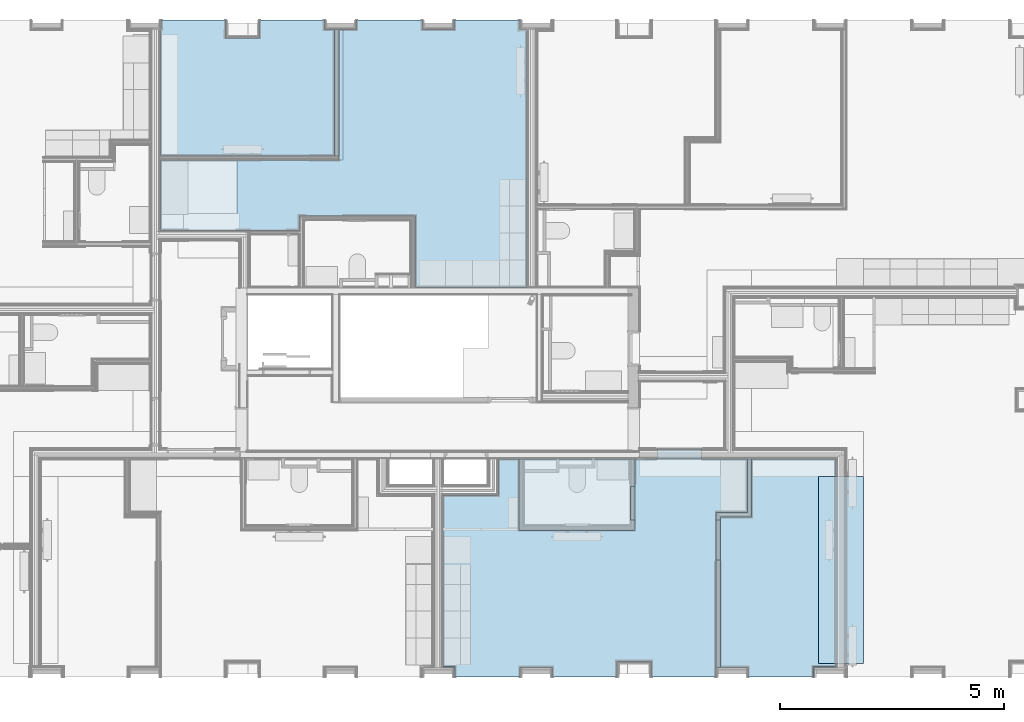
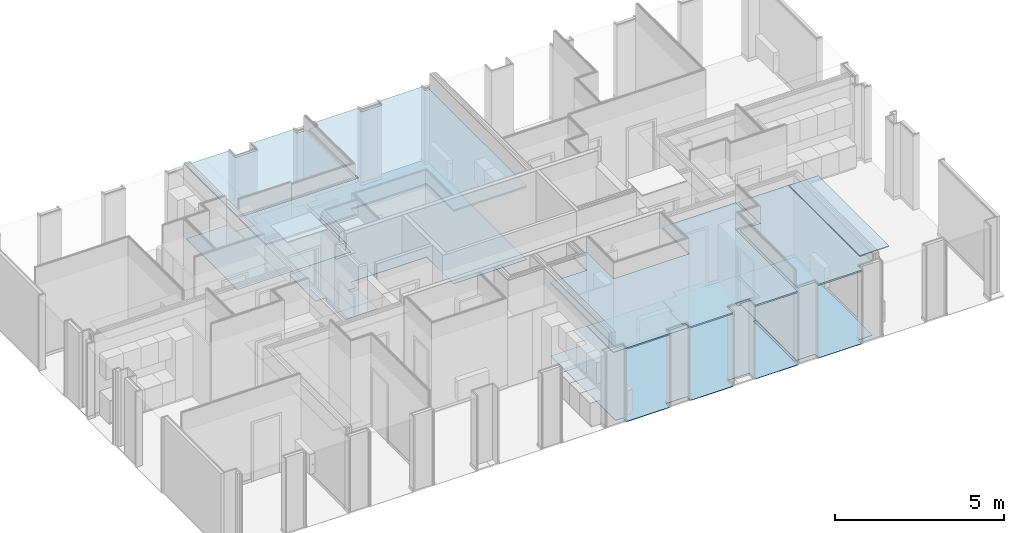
# One storey, part 46 of 65: 15 slabs.
"""IFC2X3 building model written with IfcOpenShell, lengths in metres."""

from ifc_helpers import new_model, entity, si_unit, converted_unit, derived_unit, money_unit, direction, frame, origin_with_axes, place, context, subcontext, project, spatial, faceted_brep, material, type_object, element, save


model = new_model("IFC2X3")

# Units and contexts
model_context = context("Model", 3, precision=1e-05, world=origin_with_axes(), true_north=direction((0.0, 1.0)))
body_context = subcontext(model_context, "Body", "Model", "MODEL_VIEW", scale=1.0)
ifc_project = project(units=[si_unit("LENGTHUNIT", "METRE"), si_unit("AREAUNIT", "SQUARE_METRE"), si_unit("VOLUMEUNIT", "CUBIC_METRE"), si_unit("ABSORBEDDOSEUNIT", "GRAY"), si_unit("AMOUNTOFSUBSTANCEUNIT", "MOLE"), si_unit("DOSEEQUIVALENTUNIT", "SIEVERT"), si_unit("ELECTRICCAPACITANCEUNIT", "FARAD"), si_unit("ELECTRICCHARGEUNIT", "COULOMB"), si_unit("ELECTRICCONDUCTANCEUNIT", "SIEMENS"), si_unit("ELECTRICCURRENTUNIT", "AMPERE"), si_unit("ELECTRICRESISTANCEUNIT", "OHM"), si_unit("ELECTRICVOLTAGEUNIT", "VOLT"), si_unit("ENERGYUNIT", "JOULE"), si_unit("FORCEUNIT", "NEWTON"), si_unit("FREQUENCYUNIT", "HERTZ"), si_unit("ILLUMINANCEUNIT", "LUX"), si_unit("INDUCTANCEUNIT", "HENRY"), si_unit("LUMINOUSFLUXUNIT", "LUMEN"), si_unit("LUMINOUSINTENSITYUNIT", "CANDELA"), si_unit("MAGNETICFLUXDENSITYUNIT", "TESLA"), si_unit("MAGNETICFLUXUNIT", "WEBER"), si_unit("MASSUNIT", "GRAM"), converted_unit("PLANEANGLEUNIT", "degree", entity("IfcReal", 0.0174532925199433), si_unit("PLANEANGLEUNIT", "RADIAN"), dimensions=[0, 0, 0, 0, 0, 0, 0]), si_unit("POWERUNIT", "WATT"), si_unit("PRESSUREUNIT", "PASCAL"), si_unit("RADIOACTIVITYUNIT", "BECQUEREL"), si_unit("SOLIDANGLEUNIT", "STERADIAN"), si_unit("THERMODYNAMICTEMPERATUREUNIT", "KELVIN"), si_unit("TIMEUNIT", "SECOND"), derived_unit("ACCELERATIONUNIT", [(si_unit("LENGTHUNIT", "METRE"), 1), (si_unit("TIMEUNIT", "SECOND"), -2)]), derived_unit("ANGULARVELOCITYUNIT", [(converted_unit("PLANEANGLEUNIT", "degree", entity("IfcReal", 0.0174532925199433), si_unit("PLANEANGLEUNIT", "RADIAN"), dimensions=[0, 0, 0, 0, 0, 0, 0]), 1), (si_unit("TIMEUNIT", "SECOND"), -1)]), derived_unit("CURVATUREUNIT", [(converted_unit("PLANEANGLEUNIT", "degree", entity("IfcReal", 0.0174532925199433), si_unit("PLANEANGLEUNIT", "RADIAN"), dimensions=[0, 0, 0, 0, 0, 0, 0]), 1), (si_unit("LENGTHUNIT", "METRE"), -1)]), derived_unit("DYNAMICVISCOSITYUNIT", [(si_unit("PRESSUREUNIT", "PASCAL"), 1), (si_unit("TIMEUNIT", "SECOND"), 1)]), derived_unit("HEATFLUXDENSITYUNIT", [(si_unit("POWERUNIT", "WATT"), 1), (si_unit("LENGTHUNIT", "METRE"), -2)]), derived_unit("HEATINGVALUEUNIT", [(si_unit("ENERGYUNIT", "JOULE"), 1), (si_unit("MASSUNIT", "GRAM"), -1)]), derived_unit("INTEGERCOUNTRATEUNIT", [(si_unit("TIMEUNIT", "SECOND"), -1)]), derived_unit("IONCONCENTRATIONUNIT", [(si_unit("MASSUNIT", "GRAM"), 1), (si_unit("VOLUMEUNIT", "CUBIC_METRE"), -1)]), derived_unit("ISOTHERMALMOISTURECAPACITYUNIT", [(si_unit("VOLUMEUNIT", "CUBIC_METRE"), 1), (si_unit("MASSUNIT", "GRAM"), -1)]), derived_unit("KINEMATICVISCOSITYUNIT", [(si_unit("AREAUNIT", "SQUARE_METRE"), 1), (si_unit("TIMEUNIT", "SECOND"), -1)]), derived_unit("LINEARFORCEUNIT", [(si_unit("FORCEUNIT", "NEWTON"), 1), (si_unit("LENGTHUNIT", "METRE"), -1)]), derived_unit("LINEARMOMENTUNIT", [(si_unit("FORCEUNIT", "NEWTON"), 1), (si_unit("LENGTHUNIT", "METRE"), -1)]), derived_unit("LINEARSTIFFNESSUNIT", [(si_unit("FORCEUNIT", "NEWTON"), 1), (si_unit("LENGTHUNIT", "METRE"), -1)]), derived_unit("LINEARVELOCITYUNIT", [(si_unit("LENGTHUNIT", "METRE"), 1), (si_unit("TIMEUNIT", "SECOND"), -1)]), derived_unit("LUMINOUSINTENSITYDISTRIBUTIONUNIT", [(si_unit("LUMINOUSINTENSITYUNIT", "CANDELA"), 1), (si_unit("LUMINOUSFLUXUNIT", "LUMEN"), -1)]), derived_unit("MASSDENSITYUNIT", [(si_unit("MASSUNIT", "GRAM"), 1), (si_unit("VOLUMEUNIT", "CUBIC_METRE"), -1)]), derived_unit("MASSFLOWRATEUNIT", [(si_unit("MASSUNIT", "GRAM"), 1), (si_unit("TIMEUNIT", "SECOND"), -1)]), derived_unit("MASSPERLENGTHUNIT", [(si_unit("MASSUNIT", "GRAM"), 1), (si_unit("LENGTHUNIT", "METRE"), -1)]), derived_unit("MODULUSOFELASTICITYUNIT", [(si_unit("FORCEUNIT", "NEWTON"), 1), (si_unit("AREAUNIT", "SQUARE_METRE"), -1)]), derived_unit("MODULUSOFLINEARSUBGRADEREACTIONUNIT", [(si_unit("FORCEUNIT", "NEWTON"), 1), (si_unit("LENGTHUNIT", "METRE"), -2)]), derived_unit("MODULUSOFROTATIONALSUBGRADEREACTIONUNIT", [(si_unit("FORCEUNIT", "NEWTON"), 1), (si_unit("LENGTHUNIT", "METRE"), 1)]), derived_unit("MODULUSOFSUBGRADEREACTIONUNIT", [(si_unit("FORCEUNIT", "NEWTON"), 1), (si_unit("VOLUMEUNIT", "CUBIC_METRE"), -1)]), derived_unit("MOISTUREDIFFUSIVITYUNIT", [(si_unit("VOLUMEUNIT", "CUBIC_METRE"), 1), (si_unit("TIMEUNIT", "SECOND"), -1)]), derived_unit("MOLECULARWEIGHTUNIT", [(si_unit("MASSUNIT", "GRAM"), 1), (si_unit("AMOUNTOFSUBSTANCEUNIT", "MOLE"), -1)]), derived_unit("PLANARFORCEUNIT", [(si_unit("FORCEUNIT", "NEWTON"), 1), (si_unit("LENGTHUNIT", "METRE"), -2)]), derived_unit("ROTATIONALFREQUENCYUNIT", [(si_unit("TIMEUNIT", "SECOND"), -1)]), derived_unit("ROTATIONALMASSUNIT", [(si_unit("MASSUNIT", "GRAM"), 1), (si_unit("LENGTHUNIT", "METRE"), 2)]), derived_unit("ROTATIONALSTIFFNESSUNIT", [(si_unit("FORCEUNIT", "NEWTON"), 1), (si_unit("LENGTHUNIT", "METRE"), 1), (converted_unit("PLANEANGLEUNIT", "degree", entity("IfcReal", 0.0174532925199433), si_unit("PLANEANGLEUNIT", "RADIAN"), dimensions=[0, 0, 0, 0, 0, 0, 0]), -1)]), derived_unit("SECTIONAREAINTEGRALUNIT", [(si_unit("LENGTHUNIT", "METRE"), 5)]), derived_unit("SECTIONMODULUSUNIT", [(si_unit("LENGTHUNIT", "METRE"), 3)]), derived_unit("SHEARMODULUSUNIT", [(si_unit("FORCEUNIT", "NEWTON"), 1), (si_unit("AREAUNIT", "SQUARE_METRE"), -1)]), derived_unit("SOUNDPOWERUNIT", [(si_unit("ENERGYUNIT", "JOULE"), 1), (si_unit("TIMEUNIT", "SECOND"), -1)]), derived_unit("SPECIFICHEATCAPACITYUNIT", [(si_unit("FORCEUNIT", "NEWTON"), 1), (si_unit("MASSUNIT", "GRAM"), -1), (si_unit("THERMODYNAMICTEMPERATUREUNIT", "KELVIN"), -1)]), derived_unit("TEMPERATUREGRADIENTUNIT", [(si_unit("THERMODYNAMICTEMPERATUREUNIT", "KELVIN"), 1), (si_unit("LENGTHUNIT", "METRE"), -1)]), derived_unit("THERMALADMITTANCEUNIT", [(si_unit("POWERUNIT", "WATT"), 1), (si_unit("AREAUNIT", "SQUARE_METRE"), -1), (si_unit("THERMODYNAMICTEMPERATUREUNIT", "KELVIN"), -1)]), derived_unit("THERMALCONDUCTANCEUNIT", [(si_unit("POWERUNIT", "WATT"), 1), (si_unit("LENGTHUNIT", "METRE"), -1), (si_unit("THERMODYNAMICTEMPERATUREUNIT", "KELVIN"), -1)]), derived_unit("THERMALEXPANSIONCOEFFICIENTUNIT", [(si_unit("THERMODYNAMICTEMPERATUREUNIT", "KELVIN"), -1)]), derived_unit("THERMALRESISTANCEUNIT", [(si_unit("AREAUNIT", "SQUARE_METRE"), 1), (si_unit("POWERUNIT", "WATT"), -1)]), derived_unit("THERMALTRANSMITTANCEUNIT", [(si_unit("POWERUNIT", "WATT"), 1), (si_unit("AREAUNIT", "SQUARE_METRE"), -1), (si_unit("THERMODYNAMICTEMPERATUREUNIT", "KELVIN"), -1)]), derived_unit("TORQUEUNIT", [(si_unit("FORCEUNIT", "NEWTON"), 1), (si_unit("LENGTHUNIT", "METRE"), 1)]), derived_unit("VAPORPERMEABILITYUNIT", [(si_unit("MASSUNIT", "GRAM"), 1), (si_unit("TIMEUNIT", "SECOND"), -1)]), derived_unit("VOLUMETRICFLOWRATEUNIT", [(si_unit("VOLUMEUNIT", "CUBIC_METRE"), 1), (si_unit("TIMEUNIT", "SECOND"), -1)]), derived_unit("WARPINGCONSTANTUNIT", [(si_unit("LENGTHUNIT", "METRE"), 6)]), derived_unit("WARPINGMOMENTUNIT", [(si_unit("FORCEUNIT", "NEWTON"), 1), (si_unit("LENGTHUNIT", "METRE"), 2)]), money_unit("GBP")], contexts=[model_context])

# Site, building, storey
site_placement = place(None, origin_with_axes())
site = spatial("IfcSite", under=ifc_project, at=site_placement, Name="Site", CompositionType="ELEMENT")
building_placement = place(site_placement, origin_with_axes())
building = spatial("IfcBuilding", under=site, at=building_placement, Name="Building01", CompositionType="ELEMENT")
storey_placement = place(building_placement, frame((0.0, 0.0, 8.64), z_axis=(0.0, 0.0, 1.0), x_axis=(1.0, 0.0, 0.0)))
storey = spatial("IfcBuildingStorey", under=building, at=storey_placement, Name="2F", CompositionType="ELEMENT", Elevation=8.64)

# Slabs
ifc_material_1 = material(Name="A_BSUK_ExpandedPolystyreneBoards")
slab_type_1 = type_object("IfcSlabType", Name="A-FloorsSlabs A_BSUK_Slabs", PredefinedType="FLOOR")
placement = place(storey_placement, frame((0.0, 0.0, -8.64), z_axis=(0.0, 0.0, 1.0), x_axis=(1.0, 0.0, 0.0)))
element("IfcSlab", 1, at=placement, inside=storey, type_object=slab_type_1, material=ifc_material_1, Name="A-FloorsSlabs A_BSUK_Slabs", ObjectType="CompoundSlabLeaf", context=body_context, shape_type="Brep", body=[
    faceted_brep([(14.85, 4.164428, 8.64), (14.85, 4.164428, 8.643), (14.85, 4.98, 8.643), (14.85, 4.98, 8.64), (13.6125, 4.164428, 8.64), (13.6125, 4.164428, 8.643), (13.6125, 0.318, 8.64), (13.6125, 0.318, 8.643), (13.865, 0.318, 8.64), (13.865, 0.318, 8.643), (13.865, 0.1, 8.64), (13.865, 0.1, 8.643), (15.335, 0.1, 8.64), (15.335, 0.1, 8.643), (15.335, 0.318, 8.64), (15.335, 0.318, 8.643), (16.055, 0.318, 8.64), (16.055, 0.318, 8.643), (16.055, 0.1, 8.64), (16.055, 0.1, 8.643), (17.502, 0.1, 8.64), (17.502, 0.1, 8.643), (17.502, 0.448, 8.64), (17.502, 0.448, 8.643), (18.268, 0.448, 8.64), (18.268, 0.448, 8.643), (18.268, 0.1, 8.64), (18.268, 0.1, 8.643), (19.715, 0.1, 8.64), (19.715, 0.1, 8.643), (19.715, 0.318, 8.64), (19.715, 0.318, 8.643), (20.435, 0.318, 8.64), (20.435, 0.318, 8.643), (20.435, 0.1, 8.64), (20.435, 0.1, 8.643), (21.905, 0.1, 8.64), (21.905, 0.1, 8.643), (21.905, 0.318, 8.64), (21.905, 0.318, 8.643), (22.4, 0.318, 8.64), (22.4, 0.318, 8.643), (22.4, 4.98, 8.64), (22.4, 4.98, 8.643), (19.392, 4.98, 8.64), (19.392, 4.98, 8.643), (19.392, 5.205, 8.64), (19.392, 5.205, 8.643), (18.392, 5.205, 8.64), (18.392, 5.205, 8.643), (18.392, 4.98, 8.64), (18.392, 4.98, 8.643), (18.0, 4.98, 8.64), (18.0, 4.98, 8.643)], [[[0, 1, 2, 3]], [[4, 5, 1, 0]], [[6, 7, 5, 4]], [[8, 9, 7, 6]], [[10, 11, 9, 8]], [[12, 13, 11, 10]], [[14, 15, 13, 12]], [[16, 17, 15, 14]], [[18, 19, 17, 16]], [[20, 21, 19, 18]], [[22, 23, 21, 20]], [[24, 25, 23, 22]], [[26, 27, 25, 24]], [[28, 29, 27, 26]], [[30, 31, 29, 28]], [[32, 33, 31, 30]], [[34, 35, 33, 32]], [[36, 37, 35, 34]], [[38, 39, 37, 36]], [[40, 41, 39, 38]], [[42, 43, 41, 40]], [[44, 45, 43, 42]], [[46, 47, 45, 44]], [[48, 49, 47, 46]], [[50, 51, 49, 48]], [[52, 53, 51, 50]], [[3, 2, 53, 52]], [[1, 5, 7, 9, 11, 13, 15, 17, 19, 21, 23, 25, 27, 29, 31, 33, 35, 37, 39, 41, 43, 45, 47, 49, 51, 53, 2]], [[3, 52, 50, 48, 46, 44, 42, 40, 38, 36, 34, 32, 30, 28, 26, 24, 22, 20, 18, 16, 14, 12, 10, 8, 6, 4, 0]]]),
])
ifc_material_2 = material(Name="A_BSUK_Parquet_Floor")
element("IfcSlab", 2, at=placement, inside=storey, type_object=slab_type_1, material=ifc_material_2, Name="A-FloorsSlabs A_BSUK_Slabs", ObjectType="CompoundSlabLeaf", context=body_context, shape_type="Brep", body=[
    faceted_brep([(9.285, 9.200704, 8.643), (9.285, 9.200704, 8.655), (9.285, 9.992662, 8.655), (9.285, 9.992662, 8.643), (9.285, 8.82, 8.643), (9.285, 8.82, 8.655), (10.393585, 8.82, 8.643), (10.393585, 8.82, 8.655), (10.393585, 9.992704, 8.643), (10.393585, 9.992704, 8.655), (10.128871, 9.992704, 8.643), (10.128871, 9.992704, 8.655), (10.128871, 10.087704, 8.643), (10.128871, 10.087704, 8.655), (10.393871, 10.087704, 8.643), (10.393871, 10.087704, 8.655), (10.393871, 10.415, 8.643), (10.393871, 10.415, 8.655), (12.988585, 10.415, 8.643), (12.988585, 10.415, 8.655), (12.988585, 8.82, 8.643), (12.988585, 8.82, 8.655), (15.483132, 8.82, 8.643), (15.483132, 8.82, 8.655), (15.483132, 14.582, 8.643), (15.483132, 14.582, 8.655), (15.335, 14.582, 8.643), (15.335, 14.582, 8.655), (15.335, 14.8, 8.643), (15.335, 14.8, 8.655), (13.865, 14.8, 8.643), (13.865, 14.8, 8.655), (13.865, 14.582, 8.643), (13.865, 14.582, 8.655), (13.145, 14.582, 8.643), (13.145, 14.582, 8.655), (13.145, 14.8, 8.643), (13.145, 14.8, 8.655), (11.675, 14.8, 8.643), (11.675, 14.8, 8.655), (11.675, 14.582, 8.643), (11.675, 14.582, 8.655), (11.275, 14.582, 8.643), (11.275, 14.582, 8.655), (11.275, 11.668124, 8.643), (11.275, 11.668124, 8.655), (10.611, 11.668124, 8.643), (10.611, 11.668124, 8.655), (10.611, 11.763124, 8.643), (10.611, 11.763124, 8.655), (9.711, 11.763124, 8.643), (9.711, 11.763124, 8.655), (9.711, 11.668124, 8.643), (9.711, 11.668124, 8.655), (8.995, 11.668124, 8.643), (8.995, 11.668124, 8.655), (8.995, 10.087704, 8.643), (8.995, 10.087704, 8.655), (9.09, 10.087704, 8.643), (9.09, 10.087704, 8.655), (9.336871, 10.087704, 8.643), (9.336871, 10.087704, 8.655), (9.336871, 9.992704, 8.643), (9.336871, 9.992704, 8.655)], [[[0, 1, 2, 3]], [[4, 5, 1, 0]], [[6, 7, 5, 4]], [[8, 9, 7, 6]], [[10, 11, 9, 8]], [[12, 13, 11, 10]], [[14, 15, 13, 12]], [[16, 17, 15, 14]], [[18, 19, 17, 16]], [[20, 21, 19, 18]], [[22, 23, 21, 20]], [[24, 25, 23, 22]], [[26, 27, 25, 24]], [[28, 29, 27, 26]], [[30, 31, 29, 28]], [[32, 33, 31, 30]], [[34, 35, 33, 32]], [[36, 37, 35, 34]], [[38, 39, 37, 36]], [[40, 41, 39, 38]], [[42, 43, 41, 40]], [[44, 45, 43, 42]], [[46, 47, 45, 44]], [[48, 49, 47, 46]], [[50, 51, 49, 48]], [[52, 53, 51, 50]], [[54, 55, 53, 52]], [[56, 57, 55, 54]], [[58, 59, 57, 56]], [[60, 61, 59, 58]], [[62, 63, 61, 60]], [[3, 2, 63, 62]], [[1, 5, 7, 9, 11, 13, 15, 17, 19, 21, 23, 25, 27, 29, 31, 33, 35, 37, 39, 41, 43, 45, 47, 49, 51, 53, 55, 57, 59, 61, 63, 2]], [[3, 62, 60, 58, 56, 54, 52, 50, 48, 46, 44, 42, 40, 38, 36, 34, 32, 30, 28, 26, 24, 22, 20, 18, 16, 14, 12, 10, 8, 6, 4, 0]]]),
])
ifc_material_3 = material(Name="A_BSUK_Carpet-Pile")
element("IfcSlab", 3, at=placement, inside=storey, type_object=slab_type_1, material=ifc_material_3, Name="A-FloorsSlabs A_BSUK_Slabs", ObjectType="CompoundSlabLeaf", context=body_context, shape_type="Brep", body=[
    faceted_brep([(7.289669, 11.763124, 8.643), (7.289669, 11.763124, 8.655), (7.289669, 14.582, 8.655), (7.289669, 14.582, 8.643), (8.995, 11.763124, 8.643), (8.995, 11.763124, 8.655), (11.18, 11.763124, 8.643), (11.18, 11.763124, 8.655), (11.18, 14.582, 8.643), (11.18, 14.582, 8.655), (10.955, 14.582, 8.643), (10.955, 14.582, 8.655), (10.955, 14.8, 8.643), (10.955, 14.8, 8.655), (9.508, 14.8, 8.643), (9.508, 14.8, 8.655), (9.508, 14.402, 8.643), (9.508, 14.402, 8.655), (8.742, 14.402, 8.643), (8.742, 14.402, 8.655), (8.742, 14.8, 8.643), (8.742, 14.8, 8.655), (7.295, 14.8, 8.643), (7.295, 14.8, 8.655), (7.295, 14.582, 8.643), (7.295, 14.582, 8.655)], [[[0, 1, 2, 3]], [[4, 5, 1, 0]], [[6, 7, 5, 4]], [[8, 9, 7, 6]], [[10, 11, 9, 8]], [[12, 13, 11, 10]], [[14, 15, 13, 12]], [[16, 17, 15, 14]], [[18, 19, 17, 16]], [[20, 21, 19, 18]], [[22, 23, 21, 20]], [[24, 25, 23, 22]], [[3, 2, 25, 24]], [[1, 5, 7, 9, 11, 13, 15, 17, 19, 21, 23, 25, 2]], [[3, 24, 22, 20, 18, 16, 14, 12, 10, 8, 6, 4, 0]]]),
])
element("IfcSlab", 4, at=placement, inside=storey, type_object=slab_type_1, material=ifc_material_2, Name="A-FloorsSlabs A_BSUK_Slabs", ObjectType="CompoundSlabLeaf", context=body_context, shape_type="Brep", body=[
    faceted_brep([(18.392, 4.98, 8.643), (18.392, 4.98, 8.655), (18.392, 5.205, 8.655), (18.392, 5.205, 8.643), (17.9025, 4.98, 8.643), (17.9025, 4.98, 8.655), (17.9025, 4.363781, 8.643), (17.9025, 4.363781, 8.655), (17.8075, 4.363781, 8.643), (17.8075, 4.363781, 8.655), (17.8075, 3.613781, 8.643), (17.8075, 3.613781, 8.655), (17.9025, 3.613781, 8.643), (17.9025, 3.613781, 8.655), (17.9025, 3.385, 8.643), (17.9025, 3.385, 8.655), (15.3125, 3.385, 8.643), (15.3125, 3.385, 8.655), (15.3125, 4.98, 8.643), (15.3125, 4.98, 8.655), (14.85, 4.98, 8.643), (14.85, 4.98, 8.655), (14.85, 4.164428, 8.643), (14.85, 4.164428, 8.655), (13.6125, 4.164428, 8.643), (13.6125, 4.164428, 8.655), (13.6125, 0.318, 8.643), (13.6125, 0.318, 8.655), (13.865, 0.318, 8.643), (13.865, 0.318, 8.655), (13.865, 0.1, 8.643), (13.865, 0.1, 8.655), (15.335, 0.1, 8.643), (15.335, 0.1, 8.655), (15.335, 0.318, 8.643), (15.335, 0.318, 8.655), (16.055, 0.318, 8.643), (16.055, 0.318, 8.655), (16.055, 0.1, 8.643), (16.055, 0.1, 8.655), (17.502, 0.1, 8.643), (17.502, 0.1, 8.655), (17.502, 0.448, 8.643), (17.502, 0.448, 8.655), (18.268, 0.448, 8.643), (18.268, 0.448, 8.655), (18.268, 0.1, 8.643), (18.268, 0.1, 8.655), (19.715, 0.1, 8.643), (19.715, 0.1, 8.655), (19.715, 2.716, 8.643), (19.715, 2.716, 8.655), (19.81, 2.716, 8.643), (19.81, 2.716, 8.655), (19.81, 3.616, 8.643), (19.81, 3.616, 8.655), (19.715, 3.616, 8.643), (19.715, 3.616, 8.655), (19.715, 3.78, 8.643), (19.715, 3.78, 8.655), (20.415, 3.78, 8.643), (20.415, 3.78, 8.655), (20.415, 4.98, 8.643), (20.415, 4.98, 8.655), (19.392, 4.98, 8.643), (19.392, 4.98, 8.655), (19.392, 5.205, 8.643), (19.392, 5.205, 8.655)], [[[0, 1, 2, 3]], [[4, 5, 1, 0]], [[6, 7, 5, 4]], [[8, 9, 7, 6]], [[10, 11, 9, 8]], [[12, 13, 11, 10]], [[14, 15, 13, 12]], [[16, 17, 15, 14]], [[18, 19, 17, 16]], [[20, 21, 19, 18]], [[22, 23, 21, 20]], [[24, 25, 23, 22]], [[26, 27, 25, 24]], [[28, 29, 27, 26]], [[30, 31, 29, 28]], [[32, 33, 31, 30]], [[34, 35, 33, 32]], [[36, 37, 35, 34]], [[38, 39, 37, 36]], [[40, 41, 39, 38]], [[42, 43, 41, 40]], [[44, 45, 43, 42]], [[46, 47, 45, 44]], [[48, 49, 47, 46]], [[50, 51, 49, 48]], [[52, 53, 51, 50]], [[54, 55, 53, 52]], [[56, 57, 55, 54]], [[58, 59, 57, 56]], [[60, 61, 59, 58]], [[62, 63, 61, 60]], [[64, 65, 63, 62]], [[66, 67, 65, 64]], [[3, 2, 67, 66]], [[1, 5, 7, 9, 11, 13, 15, 17, 19, 21, 23, 25, 27, 29, 31, 33, 35, 37, 39, 41, 43, 45, 47, 49, 51, 53, 55, 57, 59, 61, 63, 65, 67, 2]], [[3, 66, 64, 62, 60, 58, 56, 54, 52, 50, 48, 46, 44, 42, 40, 38, 36, 34, 32, 30, 28, 26, 24, 22, 20, 18, 16, 14, 12, 10, 8, 6, 4, 0]]]),
])
element("IfcSlab", 5, at=placement, inside=storey, type_object=slab_type_1, material=ifc_material_3, Name="A-FloorsSlabs A_BSUK_Slabs", ObjectType="CompoundSlabLeaf", context=body_context, shape_type="Brep", body=[
    faceted_brep([(20.51, 4.98, 8.643), (20.51, 4.98, 8.655), (22.4, 4.98, 8.655), (22.4, 4.98, 8.643), (20.51, 3.685, 8.643), (20.51, 3.685, 8.655), (19.81, 3.685, 8.643), (19.81, 3.685, 8.655), (19.81, 0.318, 8.643), (19.81, 0.318, 8.655), (20.435, 0.318, 8.643), (20.435, 0.318, 8.655), (20.435, 0.1, 8.643), (20.435, 0.1, 8.655), (21.905, 0.1, 8.643), (21.905, 0.1, 8.655), (21.905, 0.318, 8.643), (21.905, 0.318, 8.655), (22.4, 0.318, 8.643), (22.4, 0.318, 8.655)], [[[0, 1, 2, 3]], [[4, 5, 1, 0]], [[6, 7, 5, 4]], [[8, 9, 7, 6]], [[10, 11, 9, 8]], [[12, 13, 11, 10]], [[14, 15, 13, 12]], [[16, 17, 15, 14]], [[18, 19, 17, 16]], [[3, 2, 19, 18]], [[1, 5, 7, 9, 11, 13, 15, 17, 19, 2]], [[3, 18, 16, 14, 12, 10, 8, 6, 4, 0]]]),
])
ifc_material_4 = material(Name="A_BSUK_CeilingSoffitFinishes_Suspended")
element("IfcSlab", 6, at=placement, inside=storey, type_object=slab_type_1, material=ifc_material_4, Name="A-FloorsSlabs A_BSUK_Slabs", ObjectType="CompoundSlabLeaf", context=body_context, shape_type="Brep", body=[
    faceted_brep([(12.988585, 10.415, 11.255), (12.988585, 10.415, 11.27), (10.393871, 10.415, 11.27), (10.393871, 10.415, 11.255), (12.988585, 8.82, 11.255), (12.988585, 8.82, 11.27), (15.483132, 8.82, 11.255), (15.483132, 8.82, 11.27), (15.483132, 14.567, 11.255), (15.483132, 14.567, 11.27), (15.32, 14.567, 11.255), (15.32, 14.567, 11.27), (15.32, 14.8, 11.255), (15.32, 14.8, 11.27), (13.865, 14.8, 11.255), (13.865, 14.8, 11.27), (13.865, 14.582, 11.255), (13.865, 14.582, 11.27), (13.145, 14.582, 11.255), (13.145, 14.582, 11.27), (13.145, 14.8, 11.255), (13.145, 14.8, 11.27), (11.675, 14.8, 11.255), (11.675, 14.8, 11.27), (11.675, 14.582, 11.255), (11.675, 14.582, 11.27), (11.275, 14.582, 11.255), (11.275, 14.582, 11.27), (11.275, 11.668124, 11.255), (11.275, 11.668124, 11.27), (10.653, 11.668124, 11.255), (10.653, 11.668124, 11.27), (9.642, 11.668124, 11.255), (9.642, 11.668124, 11.27), (7.289669, 11.668124, 11.255), (7.289669, 11.668124, 11.27), (7.289669, 10.087704, 11.255), (7.289669, 10.087704, 11.27), (10.393871, 10.087704, 11.255), (10.393871, 10.087704, 11.27)], [[[0, 1, 2, 3]], [[4, 5, 1, 0]], [[6, 7, 5, 4]], [[8, 9, 7, 6]], [[10, 11, 9, 8]], [[12, 13, 11, 10]], [[14, 15, 13, 12]], [[16, 17, 15, 14]], [[18, 19, 17, 16]], [[20, 21, 19, 18]], [[22, 23, 21, 20]], [[24, 25, 23, 22]], [[26, 27, 25, 24]], [[28, 29, 27, 26]], [[30, 31, 29, 28]], [[32, 33, 31, 30]], [[34, 35, 33, 32]], [[36, 37, 35, 34]], [[38, 39, 37, 36]], [[3, 2, 39, 38]], [[1, 5, 7, 9, 11, 13, 15, 17, 19, 21, 23, 25, 27, 29, 31, 33, 35, 37, 39, 2]], [[3, 38, 36, 34, 32, 30, 28, 26, 24, 22, 20, 18, 16, 14, 12, 10, 8, 6, 4, 0]]]),
])
element("IfcSlab", 7, at=placement, inside=storey, type_object=slab_type_1, material=ifc_material_4, Name="A-FloorsSlabs A_BSUK_Slabs", ObjectType="CompoundSlabLeaf", context=body_context, shape_type="Brep", body=[
    faceted_brep([(7.289669, 12.013124, 11.255), (7.289669, 12.013124, 11.27), (7.289669, 14.567, 11.27), (7.289669, 14.567, 11.255), (7.289669, 11.763124, 11.255), (7.289669, 11.763124, 11.27), (11.18, 11.763124, 11.255), (11.18, 11.763124, 11.27), (11.18, 14.582, 11.255), (11.18, 14.582, 11.27), (10.955, 14.582, 11.255), (10.955, 14.582, 11.27), (10.955, 14.8, 11.255), (10.955, 14.8, 11.27), (9.508, 14.8, 11.255), (9.508, 14.8, 11.27), (9.508, 14.402, 11.255), (9.508, 14.402, 11.27), (8.742, 14.402, 11.255), (8.742, 14.402, 11.27), (8.742, 14.8, 11.255), (8.742, 14.8, 11.27), (7.31, 14.8, 11.255), (7.31, 14.8, 11.27), (7.31, 14.567, 11.255), (7.31, 14.567, 11.27)], [[[0, 1, 2, 3]], [[4, 5, 1, 0]], [[6, 7, 5, 4]], [[8, 9, 7, 6]], [[10, 11, 9, 8]], [[12, 13, 11, 10]], [[14, 15, 13, 12]], [[16, 17, 15, 14]], [[18, 19, 17, 16]], [[20, 21, 19, 18]], [[22, 23, 21, 20]], [[24, 25, 23, 22]], [[3, 2, 25, 24]], [[1, 5, 7, 9, 11, 13, 15, 17, 19, 21, 23, 25, 2]], [[3, 24, 22, 20, 18, 16, 14, 12, 10, 8, 6, 4, 0]]]),
])
element("IfcSlab", 8, at=placement, inside=storey, type_object=slab_type_1, material=ifc_material_4, Name="A-FloorsSlabs A_BSUK_Slabs", ObjectType="CompoundSlabLeaf", context=body_context, shape_type="Brep", body=[
    faceted_brep([(17.9025, 4.98, 11.255), (17.9025, 4.98, 11.27), (18.395, 4.98, 11.27), (18.395, 4.98, 11.255), (17.9025, 4.232781, 11.255), (17.9025, 4.232781, 11.27), (17.9025, 3.385, 11.255), (17.9025, 3.385, 11.27), (15.3125, 3.385, 11.255), (15.3125, 3.385, 11.27), (15.3125, 4.98, 11.255), (15.3125, 4.98, 11.27), (14.85, 4.98, 11.255), (14.85, 4.98, 11.27), (14.85, 4.164428, 11.255), (14.85, 4.164428, 11.27), (13.6125, 4.164428, 11.255), (13.6125, 4.164428, 11.27), (13.6125, 0.333, 11.255), (13.6125, 0.333, 11.27), (13.880124, 0.333, 11.255), (13.880124, 0.333, 11.27), (13.880124, 0.1, 11.255), (13.880124, 0.1, 11.27), (15.335, 0.1, 11.255), (15.335, 0.1, 11.27), (15.335, 0.318, 11.255), (15.335, 0.318, 11.27), (16.055, 0.318, 11.255), (16.055, 0.318, 11.27), (16.055, 0.1, 11.255), (16.055, 0.1, 11.27), (17.502, 0.1, 11.255), (17.502, 0.1, 11.27), (17.502, 0.448, 11.255), (17.502, 0.448, 11.27), (18.268, 0.448, 11.255), (18.268, 0.448, 11.27), (18.268, 0.1, 11.255), (18.268, 0.1, 11.27), (19.715, 0.1, 11.255), (19.715, 0.1, 11.27), (19.715, 3.151781, 11.255), (19.715, 3.151781, 11.27), (19.715, 3.78, 11.255), (19.715, 3.78, 11.27), (20.415, 3.78, 11.255), (20.415, 3.78, 11.27), (20.415, 4.98, 11.255), (20.415, 4.98, 11.27), (19.395, 4.98, 11.255), (19.395, 4.98, 11.27)], [[[0, 1, 2, 3]], [[4, 5, 1, 0]], [[6, 7, 5, 4]], [[8, 9, 7, 6]], [[10, 11, 9, 8]], [[12, 13, 11, 10]], [[14, 15, 13, 12]], [[16, 17, 15, 14]], [[18, 19, 17, 16]], [[20, 21, 19, 18]], [[22, 23, 21, 20]], [[24, 25, 23, 22]], [[26, 27, 25, 24]], [[28, 29, 27, 26]], [[30, 31, 29, 28]], [[32, 33, 31, 30]], [[34, 35, 33, 32]], [[36, 37, 35, 34]], [[38, 39, 37, 36]], [[40, 41, 39, 38]], [[42, 43, 41, 40]], [[44, 45, 43, 42]], [[46, 47, 45, 44]], [[48, 49, 47, 46]], [[50, 51, 49, 48]], [[3, 2, 51, 50]], [[1, 5, 7, 9, 11, 13, 15, 17, 19, 21, 23, 25, 27, 29, 31, 33, 35, 37, 39, 41, 43, 45, 47, 49, 51, 2]], [[3, 50, 48, 46, 44, 42, 40, 38, 36, 34, 32, 30, 28, 26, 24, 22, 20, 18, 16, 14, 12, 10, 8, 6, 4, 0]]]),
])
element("IfcSlab", 9, at=placement, inside=storey, type_object=slab_type_1, material=ifc_material_4, Name="A-FloorsSlabs A_BSUK_Slabs", ObjectType="CompoundSlabLeaf", context=body_context, shape_type="Brep", body=[
    faceted_brep([(20.51, 4.98, 11.255), (20.51, 4.98, 11.27), (22.4, 4.98, 11.27), (22.4, 4.98, 11.255), (20.51, 3.685, 11.255), (20.51, 3.685, 11.27), (19.81, 3.685, 11.255), (19.81, 3.685, 11.27), (19.81, 0.318, 11.255), (19.81, 0.318, 11.27), (20.435, 0.318, 11.255), (20.435, 0.318, 11.27), (20.435, 0.1, 11.255), (20.435, 0.1, 11.27), (21.89, 0.1, 11.255), (21.89, 0.1, 11.27), (21.89, 0.333, 11.255), (21.89, 0.333, 11.27), (22.4, 0.333, 11.255), (22.4, 0.333, 11.27)], [[[0, 1, 2, 3]], [[4, 5, 1, 0]], [[6, 7, 5, 4]], [[8, 9, 7, 6]], [[10, 11, 9, 8]], [[12, 13, 11, 10]], [[14, 15, 13, 12]], [[16, 17, 15, 14]], [[18, 19, 17, 16]], [[3, 2, 19, 18]], [[1, 5, 7, 9, 11, 13, 15, 17, 19, 2]], [[3, 18, 16, 14, 12, 10, 8, 6, 4, 0]]]),
])
element("IfcSlab", 10, at=placement, inside=storey, type_object=slab_type_1, material=ifc_material_4, Name="A-FloorsSlabs A_BSUK_Slabs", ObjectType="CompoundSlabLeaf", context=body_context, shape_type="Brep", body=[
    faceted_brep([(22.0125, 0.4, 11.605), (22.0125, 0.4, 11.62), (22.0125, 4.593, 11.62), (22.0125, 4.593, 11.605), (23.0125, 0.4, 11.605), (23.0125, 0.4, 11.62), (23.0125, 4.593, 11.605), (23.0125, 4.593, 11.62)], [[[0, 1, 2, 3]], [[4, 5, 1, 0]], [[6, 7, 5, 4]], [[3, 2, 7, 6]], [[1, 5, 7, 2]], [[3, 6, 4, 0]]]),
])
element("IfcSlab", 11, at=placement, inside=storey, type_object=slab_type_1, material=ifc_material_4, Name="A-FloorsSlabs A_BSUK_Slabs", ObjectType="CompoundSlabLeaf", context=body_context, shape_type="Brep", body=[
    faceted_brep([(22.0125, 0.4, 11.59), (22.0125, 0.4, 11.605), (22.0125, 4.593, 11.605), (22.0125, 4.593, 11.59), (23.0125, 0.4, 11.59), (23.0125, 0.4, 11.605), (23.0125, 4.593, 11.59), (23.0125, 4.593, 11.605)], [[[0, 1, 2, 3]], [[4, 5, 1, 0]], [[6, 7, 5, 4]], [[3, 2, 7, 6]], [[1, 5, 7, 2]], [[3, 6, 4, 0]]]),
])
slab_type_2 = type_object("IfcSlabType", Name="A-FloorsSlabs A_BSUK_ExpandedPolystyreneBoards", PredefinedType="FLOOR")
element("IfcSlab", 12, at=placement, inside=storey, type_object=slab_type_2, material=ifc_material_1, Name="A-FloorsSlabs A_BSUK_ExpandedPolystyreneBoards", ObjectType="CompoundSlabLeaf", context=body_context, shape_type="Brep", body=[
    faceted_brep([(12.988585, 10.415, 11.27), (12.988585, 10.415, 11.32), (10.393871, 10.415, 11.32), (10.393871, 10.415, 11.27), (12.988585, 8.82, 11.27), (12.988585, 8.82, 11.32), (15.483132, 8.82, 11.27), (15.483132, 8.82, 11.32), (15.483132, 14.582, 11.27), (15.483132, 14.582, 11.32), (15.335, 14.582, 11.27), (15.335, 14.582, 11.32), (15.335, 14.8, 11.27), (15.335, 14.8, 11.32), (13.865, 14.8, 11.27), (13.865, 14.8, 11.32), (13.865, 14.582, 11.27), (13.865, 14.582, 11.32), (13.145, 14.582, 11.27), (13.145, 14.582, 11.32), (13.145, 14.8, 11.27), (13.145, 14.8, 11.32), (11.675, 14.8, 11.27), (11.675, 14.8, 11.32), (11.675, 14.582, 11.27), (11.675, 14.582, 11.32), (11.375, 14.582, 11.27), (11.375, 14.582, 11.32), (11.375, 11.668124, 11.27), (11.375, 11.668124, 11.32), (10.653, 11.668124, 11.27), (10.653, 11.668124, 11.32), (9.642, 11.668124, 11.27), (9.642, 11.668124, 11.32), (7.289669, 11.668124, 11.27), (7.289669, 11.668124, 11.32), (7.289669, 10.087704, 11.27), (7.289669, 10.087704, 11.32), (10.393871, 10.087704, 11.27), (10.393871, 10.087704, 11.32)], [[[0, 1, 2, 3]], [[4, 5, 1, 0]], [[6, 7, 5, 4]], [[8, 9, 7, 6]], [[10, 11, 9, 8]], [[12, 13, 11, 10]], [[14, 15, 13, 12]], [[16, 17, 15, 14]], [[18, 19, 17, 16]], [[20, 21, 19, 18]], [[22, 23, 21, 20]], [[24, 25, 23, 22]], [[26, 27, 25, 24]], [[28, 29, 27, 26]], [[30, 31, 29, 28]], [[32, 33, 31, 30]], [[34, 35, 33, 32]], [[36, 37, 35, 34]], [[38, 39, 37, 36]], [[3, 2, 39, 38]], [[1, 5, 7, 9, 11, 13, 15, 17, 19, 21, 23, 25, 27, 29, 31, 33, 35, 37, 39, 2]], [[3, 38, 36, 34, 32, 30, 28, 26, 24, 22, 20, 18, 16, 14, 12, 10, 8, 6, 4, 0]]]),
])
element("IfcSlab", 13, at=placement, inside=storey, type_object=slab_type_2, material=ifc_material_1, Name="A-FloorsSlabs A_BSUK_ExpandedPolystyreneBoards", ObjectType="CompoundSlabLeaf", context=body_context, shape_type="Brep", body=[
    faceted_brep([(7.289669, 12.013124, 11.27), (7.289669, 12.013124, 11.32), (7.289669, 14.582, 11.32), (7.289669, 14.582, 11.27), (7.289669, 11.763124, 11.27), (7.289669, 11.763124, 11.32), (11.28, 11.763124, 11.27), (11.28, 11.763124, 11.32), (11.28, 14.582, 11.27), (11.28, 14.582, 11.32), (10.955, 14.582, 11.27), (10.955, 14.582, 11.32), (10.955, 14.8, 11.27), (10.955, 14.8, 11.32), (9.508, 14.8, 11.27), (9.508, 14.8, 11.32), (9.508, 14.402, 11.27), (9.508, 14.402, 11.32), (8.742, 14.402, 11.27), (8.742, 14.402, 11.32), (8.742, 14.8, 11.27), (8.742, 14.8, 11.32), (7.295, 14.8, 11.27), (7.295, 14.8, 11.32), (7.295, 14.582, 11.27), (7.295, 14.582, 11.32)], [[[0, 1, 2, 3]], [[4, 5, 1, 0]], [[6, 7, 5, 4]], [[8, 9, 7, 6]], [[10, 11, 9, 8]], [[12, 13, 11, 10]], [[14, 15, 13, 12]], [[16, 17, 15, 14]], [[18, 19, 17, 16]], [[20, 21, 19, 18]], [[22, 23, 21, 20]], [[24, 25, 23, 22]], [[3, 2, 25, 24]], [[1, 5, 7, 9, 11, 13, 15, 17, 19, 21, 23, 25, 2]], [[3, 24, 22, 20, 18, 16, 14, 12, 10, 8, 6, 4, 0]]]),
])
element("IfcSlab", 14, at=placement, inside=storey, type_object=slab_type_2, material=ifc_material_1, Name="A-FloorsSlabs A_BSUK_ExpandedPolystyreneBoards", ObjectType="CompoundSlabLeaf", context=body_context, shape_type="Brep", body=[
    faceted_brep([(17.9025, 4.98, 11.27), (17.9025, 4.98, 11.32), (18.395, 4.98, 11.32), (18.395, 4.98, 11.27), (17.9025, 4.232781, 11.27), (17.9025, 4.232781, 11.32), (17.9025, 3.385, 11.27), (17.9025, 3.385, 11.32), (15.3125, 3.385, 11.27), (15.3125, 3.385, 11.32), (15.3125, 4.98, 11.27), (15.3125, 4.98, 11.32), (14.85, 4.98, 11.27), (14.85, 4.98, 11.32), (14.85, 4.164428, 11.27), (14.85, 4.164428, 11.32), (13.6125, 4.164428, 11.27), (13.6125, 4.164428, 11.32), (13.6125, 0.318, 11.27), (13.6125, 0.318, 11.32), (13.865, 0.318, 11.27), (13.865, 0.318, 11.32), (13.865, 0.1, 11.27), (13.865, 0.1, 11.32), (15.335, 0.1, 11.27), (15.335, 0.1, 11.32), (15.335, 0.318, 11.27), (15.335, 0.318, 11.32), (16.055, 0.318, 11.27), (16.055, 0.318, 11.32), (16.055, 0.1, 11.27), (16.055, 0.1, 11.32), (17.502, 0.1, 11.27), (17.502, 0.1, 11.32), (17.502, 0.448, 11.27), (17.502, 0.448, 11.32), (18.268, 0.448, 11.27), (18.268, 0.448, 11.32), (18.268, 0.1, 11.27), (18.268, 0.1, 11.32), (19.715, 0.1, 11.27), (19.715, 0.1, 11.32), (19.715, 3.151781, 11.27), (19.715, 3.151781, 11.32), (19.715, 3.78, 11.27), (19.715, 3.78, 11.32), (20.415, 3.78, 11.27), (20.415, 3.78, 11.32), (20.415, 4.98, 11.27), (20.415, 4.98, 11.32), (19.395, 4.98, 11.27), (19.395, 4.98, 11.32)], [[[0, 1, 2, 3]], [[4, 5, 1, 0]], [[6, 7, 5, 4]], [[8, 9, 7, 6]], [[10, 11, 9, 8]], [[12, 13, 11, 10]], [[14, 15, 13, 12]], [[16, 17, 15, 14]], [[18, 19, 17, 16]], [[20, 21, 19, 18]], [[22, 23, 21, 20]], [[24, 25, 23, 22]], [[26, 27, 25, 24]], [[28, 29, 27, 26]], [[30, 31, 29, 28]], [[32, 33, 31, 30]], [[34, 35, 33, 32]], [[36, 37, 35, 34]], [[38, 39, 37, 36]], [[40, 41, 39, 38]], [[42, 43, 41, 40]], [[44, 45, 43, 42]], [[46, 47, 45, 44]], [[48, 49, 47, 46]], [[50, 51, 49, 48]], [[3, 2, 51, 50]], [[1, 5, 7, 9, 11, 13, 15, 17, 19, 21, 23, 25, 27, 29, 31, 33, 35, 37, 39, 41, 43, 45, 47, 49, 51, 2]], [[3, 50, 48, 46, 44, 42, 40, 38, 36, 34, 32, 30, 28, 26, 24, 22, 20, 18, 16, 14, 12, 10, 8, 6, 4, 0]]]),
])
element("IfcSlab", 15, at=placement, inside=storey, type_object=slab_type_2, material=ifc_material_1, Name="A-FloorsSlabs A_BSUK_ExpandedPolystyreneBoards", ObjectType="CompoundSlabLeaf", context=body_context, shape_type="Brep", body=[
    faceted_brep([(20.51, 4.98, 11.27), (20.51, 4.98, 11.32), (22.4, 4.98, 11.32), (22.4, 4.98, 11.27), (20.51, 3.685, 11.27), (20.51, 3.685, 11.32), (19.81, 3.685, 11.27), (19.81, 3.685, 11.32), (19.81, 0.318, 11.27), (19.81, 0.318, 11.32), (20.435, 0.318, 11.27), (20.435, 0.318, 11.32), (20.435, 0.1, 11.27), (20.435, 0.1, 11.32), (21.905, 0.1, 11.27), (21.905, 0.1, 11.32), (21.905, 0.318, 11.27), (21.905, 0.318, 11.32), (22.4, 0.318, 11.27), (22.4, 0.318, 11.32)], [[[0, 1, 2, 3]], [[4, 5, 1, 0]], [[6, 7, 5, 4]], [[8, 9, 7, 6]], [[10, 11, 9, 8]], [[12, 13, 11, 10]], [[14, 15, 13, 12]], [[16, 17, 15, 14]], [[18, 19, 17, 16]], [[3, 2, 19, 18]], [[1, 5, 7, 9, 11, 13, 15, 17, 19, 2]], [[3, 18, 16, 14, 12, 10, 8, 6, 4, 0]]]),
])

save(model, "model.ifc")
